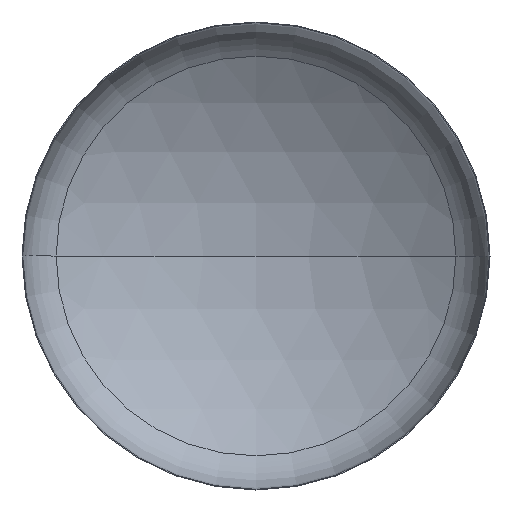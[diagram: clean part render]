
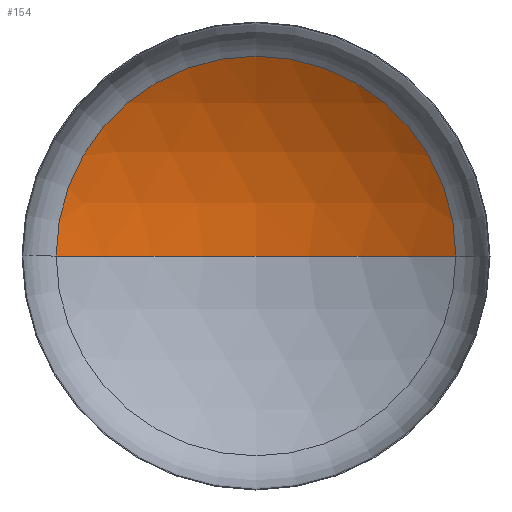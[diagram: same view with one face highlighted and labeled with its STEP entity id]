
A CAD part, front view. The second image highlights one B-rep face of the part: STEP entity #154.
In plain terms, the highlighted spherical face has radius 2560 mm.
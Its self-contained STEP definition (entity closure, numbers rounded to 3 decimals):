
#7 = CARTESIAN_POINT ( 'NONE',  ( 0., -1730.393, 0. ) ) ;
#15 = ORIENTED_EDGE ( 'NONE', *, *, #311, .T. ) ;
#28 = VERTEX_POINT ( 'NONE', #286 ) ;
#54 = ORIENTED_EDGE ( 'NONE', *, *, #292, .T. ) ;
#59 = AXIS2_PLACEMENT_3D ( 'NONE', #104, #215, #143 ) ;
#60 = CIRCLE ( 'NONE', #258, 2560. ) ;
#64 = ORIENTED_EDGE ( 'NONE', *, *, #268, .F. ) ;
#65 = VERTEX_POINT ( 'NONE', #188 ) ;
#66 = DIRECTION ( 'NONE',  ( -1., 0., 0. ) ) ;
#93 = EDGE_LOOP ( 'NONE', ( #64, #54, #15 ) ) ;
#104 = CARTESIAN_POINT ( 'NONE',  ( 0., -1730.393, 0. ) ) ;
#123 = CARTESIAN_POINT ( 'NONE',  ( 0., 434.344, 0. ) ) ;
#129 = FACE_OUTER_BOUND ( 'NONE', #93, .T. ) ;
#130 = CARTESIAN_POINT ( 'NONE',  ( 1366.57, 434.344, 0. ) ) ;
#143 = DIRECTION ( 'NONE',  ( -1., 0., 0. ) ) ;
#154 = ADVANCED_FACE ( 'NONE', ( #129 ), #283, .F. ) ;
#166 = DIRECTION ( 'NONE',  ( 0., 0., 1. ) ) ;
#168 = DIRECTION ( 'NONE',  ( 1., 0., 0. ) ) ;
#174 = CIRCLE ( 'NONE', #343, 1366.57 ) ;
#188 = CARTESIAN_POINT ( 'NONE',  ( 0., 829.607, 0. ) ) ;
#215 = DIRECTION ( 'NONE',  ( 0., 0., -1. ) ) ;
#232 = VERTEX_POINT ( 'NONE', #130 ) ;
#258 = AXIS2_PLACEMENT_3D ( 'NONE', #7, #276, #66 ) ;
#268 = EDGE_CURVE ( 'NONE', #65, #28, #379, .T. ) ;
#275 = AXIS2_PLACEMENT_3D ( 'NONE', #328, #166, #349 ) ;
#276 = DIRECTION ( 'NONE',  ( 0., 0., -1. ) ) ;
#283 = SPHERICAL_SURFACE ( 'NONE', #59, 2560. ) ;
#286 = CARTESIAN_POINT ( 'NONE',  ( -1366.57, 434.344, 0. ) ) ;
#292 = EDGE_CURVE ( 'NONE', #65, #232, #60, .T. ) ;
#311 = EDGE_CURVE ( 'NONE', #232, #28, #174, .T. ) ;
#328 = CARTESIAN_POINT ( 'NONE',  ( 0., -1730.393, 0. ) ) ;
#329 = DIRECTION ( 'NONE',  ( 0., -1., 0. ) ) ;
#343 = AXIS2_PLACEMENT_3D ( 'NONE', #123, #329, #168 ) ;
#349 = DIRECTION ( 'NONE',  ( 1., 0., 0. ) ) ;
#379 = CIRCLE ( 'NONE', #275, 2560. ) ;
